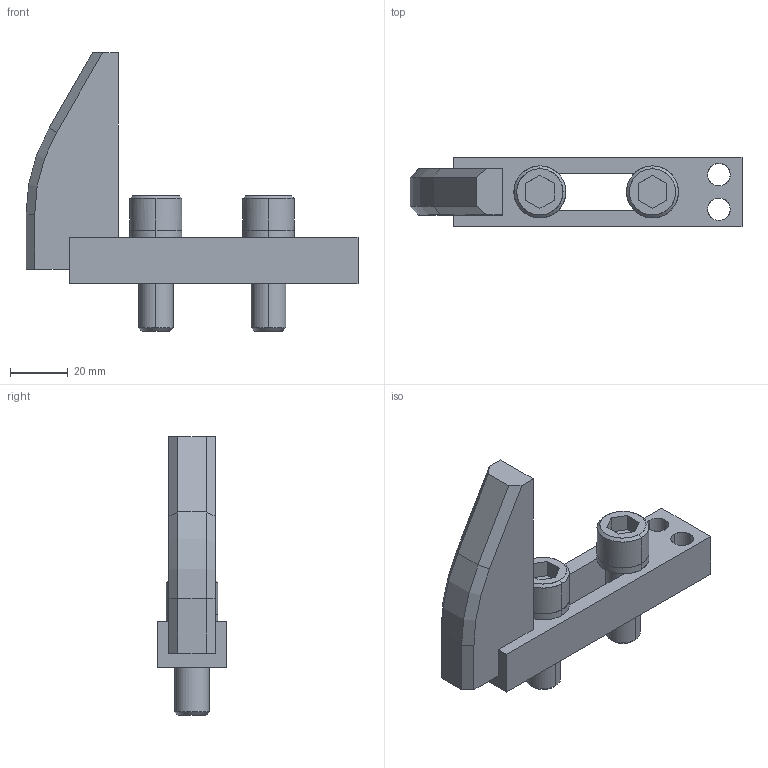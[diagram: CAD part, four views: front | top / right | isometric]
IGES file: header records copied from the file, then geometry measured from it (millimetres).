
Global section: file name: E:\UnigraphicsGraphicData\MISUMI_PRESS-PARTS\IGES\3d_ngnba-80-40-m12_01522_r00.igs; native system: NX V5.0; preprocessor: UGS NX IGES V5.0; author: MISUMI; date: 20110105.162049; units: millimetre
Bounding box: 115 x 24 x 96.5 mm (x, y, z)
Surface area: 23762.2 mm2 (no closed solid volume)
Topology: 0 solids, 0 shells, 100 faces, 630 edges, 630 vertices
Faces by surface type: bspline 100
